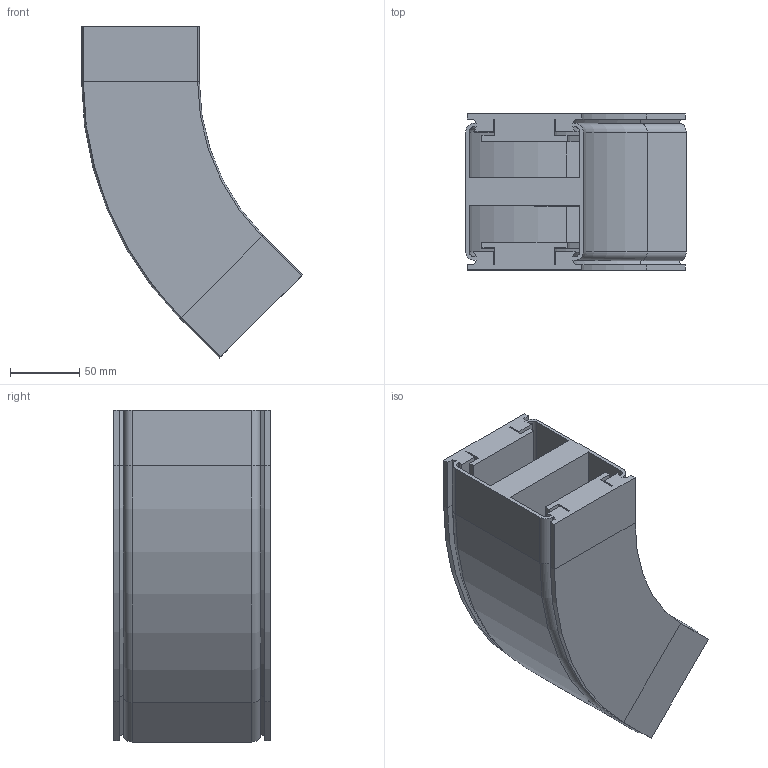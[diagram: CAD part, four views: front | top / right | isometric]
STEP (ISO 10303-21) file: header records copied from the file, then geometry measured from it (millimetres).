
FILE_DESCRIPTION (( 'STEP AP214' ), '1' );
FILE_NAME ('VC.85 Horizontale bochtsectie R200 45°.STEP', '2016-10-19T07:04:16', ( '' ), ( '' ), 'SwSTEP 2.0', 'SolidWorks 2016', '' );
FILE_SCHEMA (( 'AUTOMOTIVE_DESIGN' ));
Length unit declared in the file: millimetre
Products named in the file (1): VC.85 Horizontale bochtsectie R200 45°
Bounding box: 159.41 x 113 x 239.76 mm (x, y, z)
Volume: 1130189.5 mm3; surface area: 267644.5 mm2
Topology: 1 solids, 1 shells, 206 faces, 476 edges, 272 vertices
Faces by surface type: plane 152, cylinder 38, cone 8, torus 8
Entity records: 5674 total; most frequent: DIRECTION 990, CARTESIAN_POINT 955, ORIENTED_EDGE 952, EDGE_CURVE 476, VECTOR 376, LINE 376, AXIS2_PLACEMENT_3D 307, VERTEX_POINT 272
